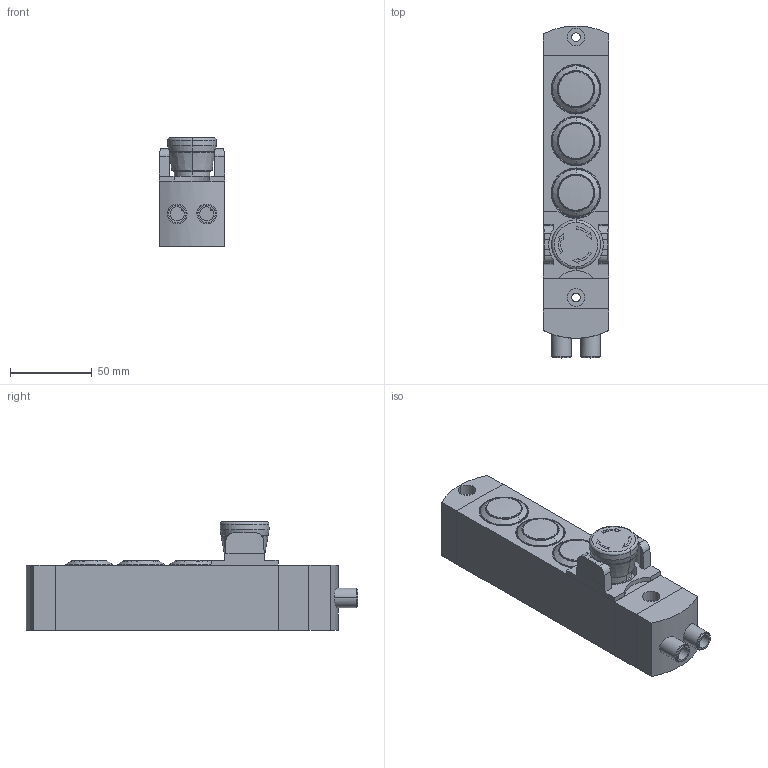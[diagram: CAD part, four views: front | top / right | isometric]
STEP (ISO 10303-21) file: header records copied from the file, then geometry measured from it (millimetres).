
FILE_DESCRIPTION (( 'STEP AP203' ), '1' );
FILE_NAME ('ZF_STEP_BN_AC4EA01.STEP', '2025-11-17T13:12:59', ( '' ), ( '' ), 'SwSTEP 2.0', 'SolidWorks 2023', '' );
FILE_SCHEMA (( 'CONFIG_CONTROL_DESIGN' ));
Length unit declared in the file: millimetre
Products named in the file (12): Pulsante rasato_3DWeb_27121 bianco; Pizzato_4dispositivi; ZF_STEP_VN_NG-AC26052; Pizzato_11144; Guardia 11163_3DWeb_default; ZF_STEP_VN_NG-AC27121; Connettore M12 doppio; Pizzato_11135; Pulsate emergenza rosso_3DWeb_26052; ZF_STEP_BN_AC4EA01; ZF_STEP_Guardia 11163
Assembly tree (13 placements, depth 3):
  ZF_STEP_BN_AC4EA01
    Pizzato_11144
    Pizzato_11135
    Pizzato_4dispositivi
    Connettore M12 doppio
      Connettore M12 doppio
    ZF_STEP_VN_NG-AC27121  x3
      Pulsante rasato_3DWeb_27121 bianco
    ZF_STEP_VN_NG-AC26052
      Pulsate emergenza rosso_3DWeb_26052
    ZF_STEP_Guardia 11163
      Guardia 11163_3DWeb_default
Bounding box: 40 x 203.2 x 66.7 mm (x, y, z)
Volume: 329916.4 mm3; surface area: 68378.2 mm2
Topology: 9 solids, 11 shells, 795 faces, 2031 edges, 1344 vertices
Faces by surface type: plane 386, cylinder 211, bspline 122, cone 64, torus 12
Entity records: 25433 total; most frequent: CARTESIAN_POINT 8302, ORIENTED_EDGE 3466, DIRECTION 2966, EDGE_CURVE 1733, VERTEX_POINT 1144, LINE 998, VECTOR 998, AXIS2_PLACEMENT_3D 984
